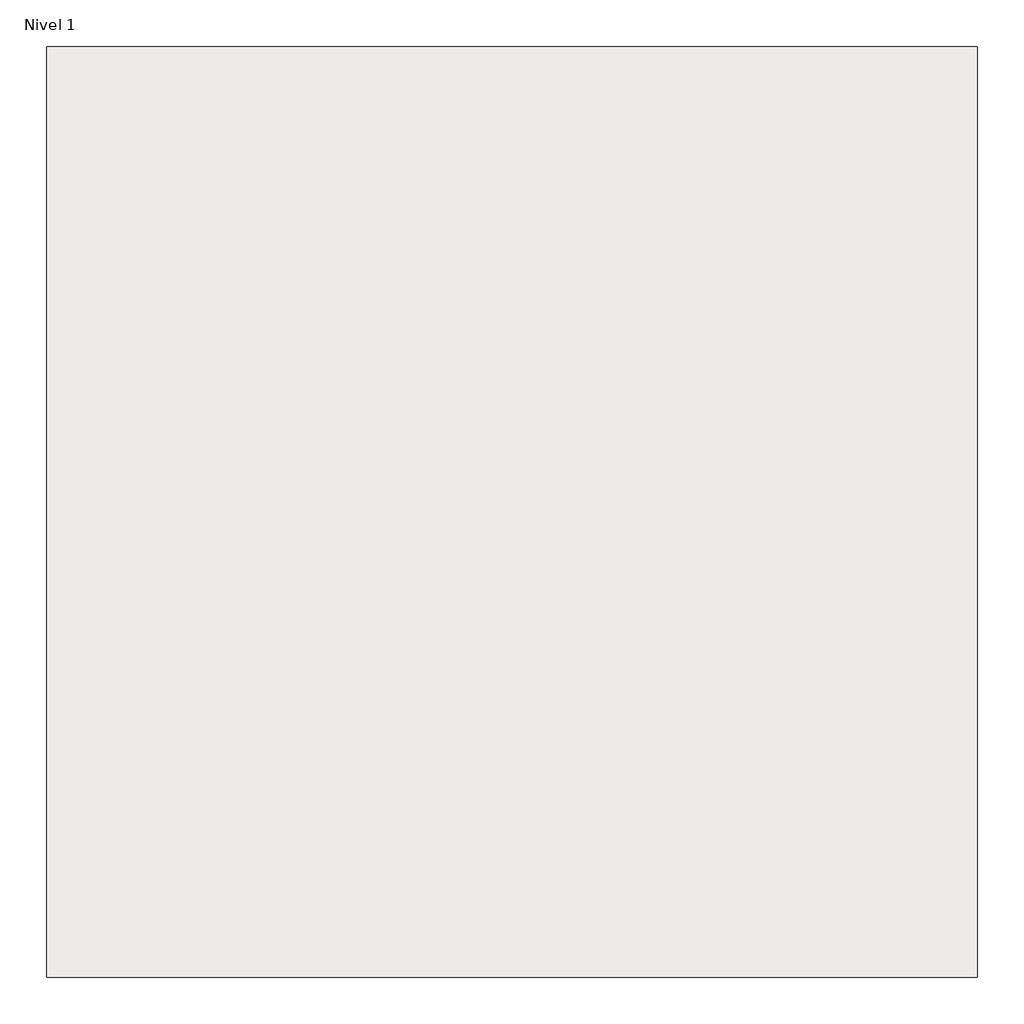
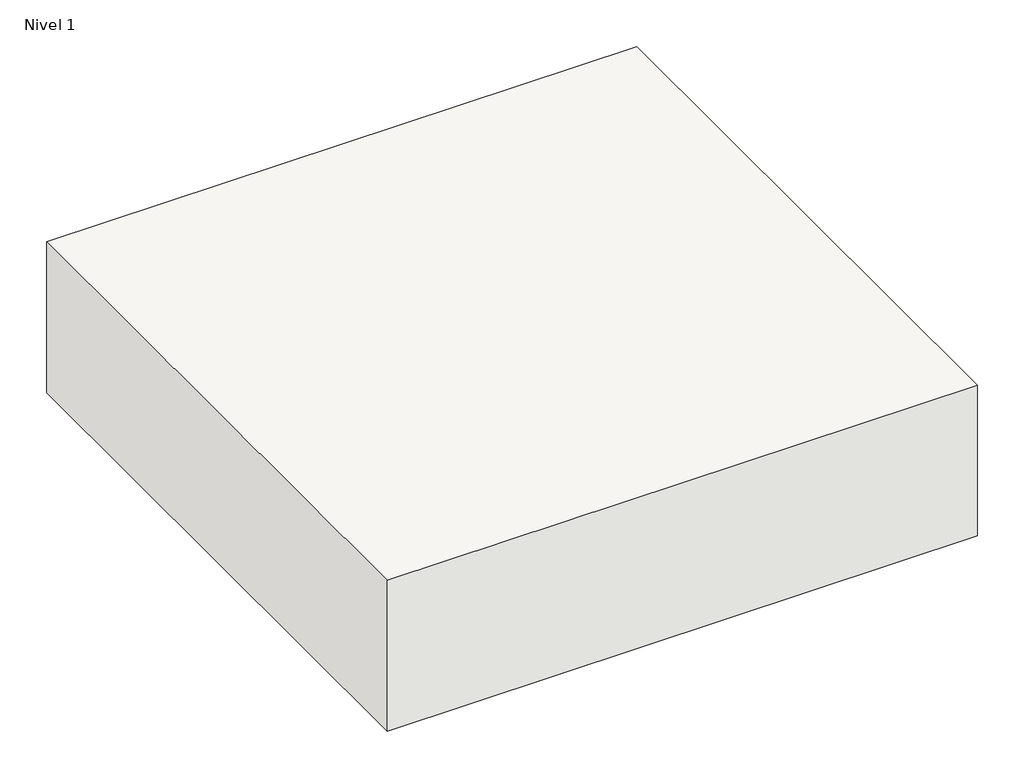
# One storey: 1 slab.
"""IFC4 building model written with IfcOpenShell, lengths in millimetres."""

from ifc_helpers import new_model, si_unit, frame, origin, place, context, project, spatial, polyline, outline, extrude, element, save

model = new_model("IFC4")

# Units and contexts
model_context = context("Model", 3, world=origin())
ifc_project = project(units=[si_unit("LENGTHUNIT", "METRE", prefix="MILLI")], contexts=[model_context])

# Site, building, storey
site = spatial("IfcSite", under=ifc_project)
building = spatial("IfcBuilding", under=site)
storey = spatial("IfcBuildingStorey", under=building, Name="Nivel 1", Elevation=0.0)

# Slab
placement = place(None, origin())
element("IfcSlab", 1, ObjectType="Suelo flotante estándar con ChovAIMPACT 10RT - Sistema S03", at=placement, inside=storey, context=model_context, shape_type="SweptSolid", body=[
    extrude(outline(polyline([(-3481.3346139, -2999.8684589), (-4481.3346139, -2999.8684589), (-4481.3346139, -1999.8684589), (-3481.3346139, -1999.8684589), (-3481.3346139, -2999.8684589)])), frame((0.0, 0.0, -270.0), z_axis=(0.0, 0.0, 1.0), x_axis=(1.0, 0.0, 0.0)), (0.0, 0.0, 1.0), 270.0),
])

save(model, "model.ifc")
